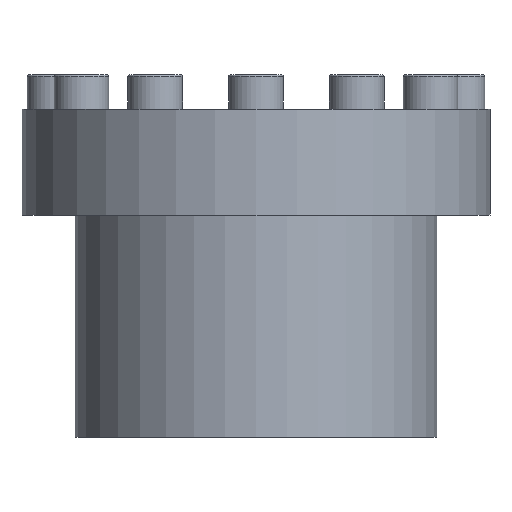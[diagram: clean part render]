
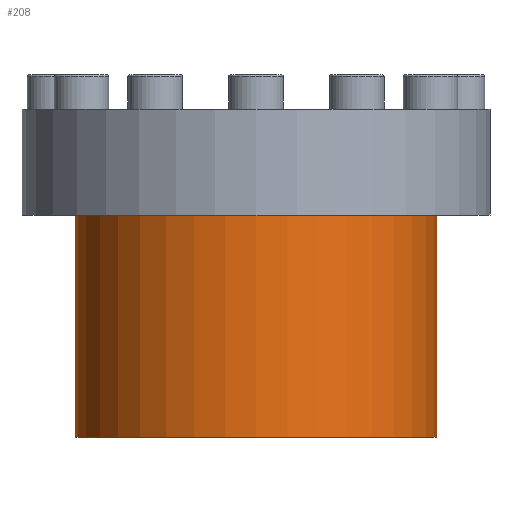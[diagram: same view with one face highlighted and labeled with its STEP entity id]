
A CAD part, front view. The second image highlights one B-rep face of the part: STEP entity #208.
In plain terms, the highlighted cylindrical face has radius 52.9 mm (diameter 105.8 mm), a partial arc.
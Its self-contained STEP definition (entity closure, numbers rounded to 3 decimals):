
#102 = VERTEX_POINT ( 'NONE', #643 ) ;
#168 = VERTEX_POINT ( 'NONE', #3716 ) ;
#208 = ADVANCED_FACE ( 'NONE', ( #1638 ), #733, .T. ) ;
#565 = AXIS2_PLACEMENT_3D ( 'NONE', #1770, #2797, #751 ) ;
#598 = CARTESIAN_POINT ( 'NONE',  ( -52.9, 0., 0. ) ) ;
#643 = CARTESIAN_POINT ( 'NONE',  ( -52.9, 0., -31. ) ) ;
#704 = CARTESIAN_POINT ( 'NONE',  ( -52.9, 0., -96. ) ) ;
#733 = CYLINDRICAL_SURFACE ( 'NONE', #565, 52.9 ) ;
#734 = EDGE_CURVE ( 'NONE', #2070, #102, #1947, .T. ) ;
#751 = DIRECTION ( 'NONE',  ( 1., 0., 0. ) ) ;
#759 = CARTESIAN_POINT ( 'NONE',  ( 0., 0., -31. ) ) ;
#1001 = EDGE_CURVE ( 'NONE', #102, #168, #3262, .T. ) ;
#1083 = DIRECTION ( 'NONE',  ( 1., 0., 0. ) ) ;
#1132 = CIRCLE ( 'NONE', #1999, 52.9 ) ;
#1260 = ORIENTED_EDGE ( 'NONE', *, *, #734, .F. ) ;
#1337 = AXIS2_PLACEMENT_3D ( 'NONE', #759, #3808, #1083 ) ;
#1525 = EDGE_CURVE ( 'NONE', #3623, #168, #2748, .T. ) ;
#1638 = FACE_OUTER_BOUND ( 'NONE', #4089, .T. ) ;
#1665 = CARTESIAN_POINT ( 'NONE',  ( 52.9, 0., 0. ) ) ;
#1770 = CARTESIAN_POINT ( 'NONE',  ( 0., 0., 0. ) ) ;
#1845 = VECTOR ( 'NONE', #3706, 1000. ) ;
#1912 = DIRECTION ( 'NONE',  ( 0., 0., 1. ) ) ;
#1947 = LINE ( 'NONE', #598, #3265 ) ;
#1999 = AXIS2_PLACEMENT_3D ( 'NONE', #3073, #4381, #2035 ) ;
#2035 = DIRECTION ( 'NONE',  ( 1., 0., 0. ) ) ;
#2070 = VERTEX_POINT ( 'NONE', #704 ) ;
#2072 = EDGE_CURVE ( 'NONE', #2070, #3623, #1132, .T. ) ;
#2748 = LINE ( 'NONE', #1665, #1845 ) ;
#2797 = DIRECTION ( 'NONE',  ( 0., 0., 1. ) ) ;
#3073 = CARTESIAN_POINT ( 'NONE',  ( 0., 0., -96. ) ) ;
#3147 = ORIENTED_EDGE ( 'NONE', *, *, #1001, .F. ) ;
#3156 = ORIENTED_EDGE ( 'NONE', *, *, #2072, .T. ) ;
#3262 = CIRCLE ( 'NONE', #1337, 52.9 ) ;
#3265 = VECTOR ( 'NONE', #1912, 1000. ) ;
#3402 = ORIENTED_EDGE ( 'NONE', *, *, #1525, .T. ) ;
#3623 = VERTEX_POINT ( 'NONE', #3631 ) ;
#3631 = CARTESIAN_POINT ( 'NONE',  ( 52.9, 0., -96. ) ) ;
#3706 = DIRECTION ( 'NONE',  ( 0., 0., 1. ) ) ;
#3716 = CARTESIAN_POINT ( 'NONE',  ( 52.9, 0., -31. ) ) ;
#3808 = DIRECTION ( 'NONE',  ( 0., 0., 1. ) ) ;
#4089 = EDGE_LOOP ( 'NONE', ( #1260, #3156, #3402, #3147 ) ) ;
#4381 = DIRECTION ( 'NONE',  ( 0., 0., 1. ) ) ;
